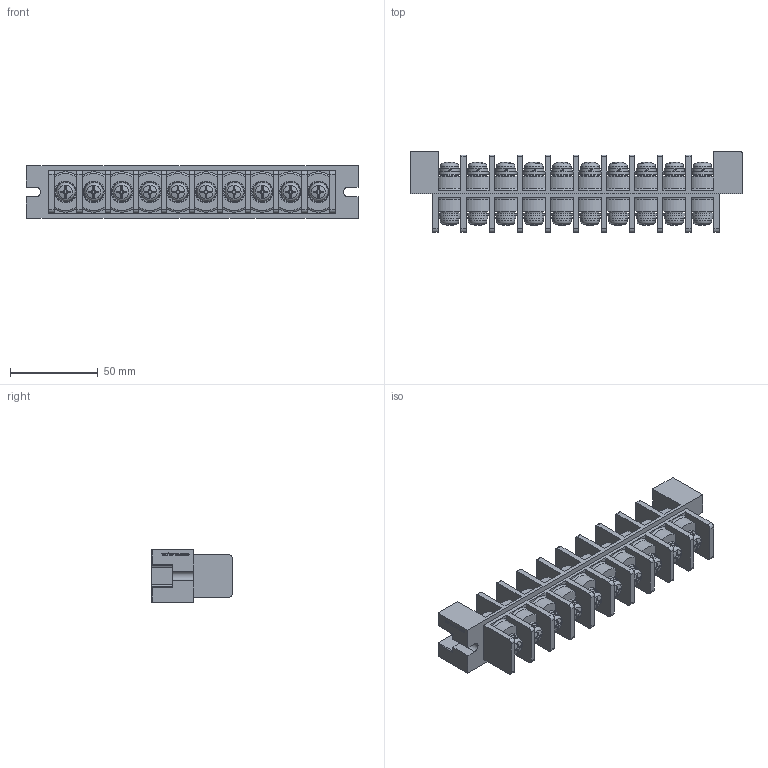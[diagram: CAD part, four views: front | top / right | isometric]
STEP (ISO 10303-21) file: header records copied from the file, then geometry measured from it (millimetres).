
FILE_DESCRIPTION(/* description */ ('Alibre Inc.'),/* implementation_level */ '2;1');
FILE_NAME(/* name */ 'export0',/* time_stamp */ '2016-01-14T19:24:53+09:00',/* author */ (''),/* organization */ (''),/* preprocessor_version */ 'ST-DEVELOPER v14',/* originating_system */ 'Alibre',/* authorisation */ '');
FILE_SCHEMA (('CONFIG_CONTROL_DESIGN'));
Length unit declared in the file: centimetre
Products named in the file (1): ID_1
Bounding box: 189 x 46 x 30 mm (x, y, z)
Volume: 120853.2 mm3; surface area: 52093.6 mm2
Topology: 1 solids, 31 shells, 1284 faces, 3274 edges, 2155 vertices
Faces by surface type: plane 726, cylinder 286, cone 140, torus 60, bspline 52, sphere 20
Full cylindrical faces by diameter (mm): 4.55 x2, 6 x30, 10.5 x40, 10.75 x20, 12.5 x20
Entity records: 38762 total; most frequent: CARTESIAN_POINT 9948, ORIENTED_EDGE 6042, DIRECTION 5199, EDGE_CURVE 3021, AXIS2_PLACEMENT_3D 2185, VERTEX_POINT 2094, EDGE_LOOP 1619, FACE_BOUND 1619
